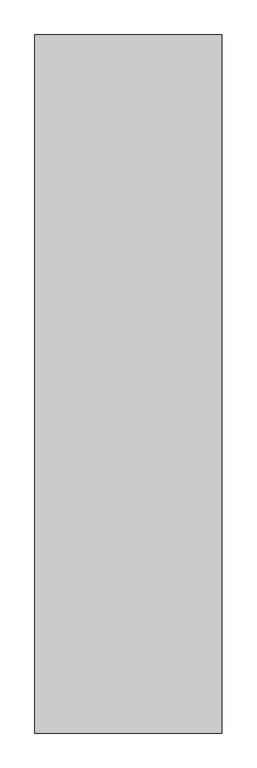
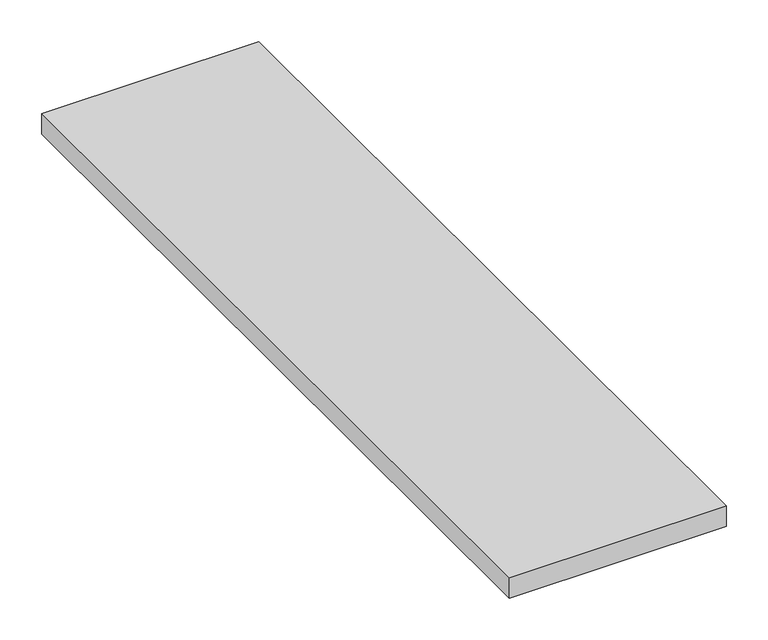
"""IFC4 building model written with IfcOpenShell, lengths in millimetres: proxy geometry, GM_Отделка : Ступень."""

from ifc_helpers import new_model, si_unit, origin, origin_with_axes, place, context, project, spatial, polyline, outline, extrude, source, transform, mapped, element, save


def generic_models_e5fd676e(model_context):
    return source(origin(), model_context, "Body", "SweptSolid", [
        extrude(outline(polyline([(-50.0, 972.5), (-50.0, -147.5), (-350.0, -147.5), (-350.0, 972.5), (-50.0, 972.5)])), origin_with_axes(), (0.0, 0.0, 1.0), 30.0),
    ])


if __name__ == "__main__":
    model = new_model("IFC4")
    model_context = context("Model", 3, world=origin())
    ifc_project = project(units=[si_unit("LENGTHUNIT", "METRE", prefix="MILLI")], contexts=[model_context])
    site = spatial("IfcSite", under=ifc_project)
    building = spatial("IfcBuilding", under=site)
    placement = place(None, origin())
    generic_models_shape = generic_models_e5fd676e(model_context)
    element("IfcBuildingElementProxy", 1, Name="GM_Отделка : Ступень", ObjectType="GM_Отделка : Ступень", at=placement, inside=building, context=model_context, shape_type="MappedRepresentation", body=[
        mapped(generic_models_shape, transform((0.0, 0.0, 0.0), x_axis=(1.0, 0.0, 0.0), y_axis=(0.0, 1.0, 0.0), z_axis=(0.0, 0.0, 1.0))),
    ])
    save(model, "model.ifc")
